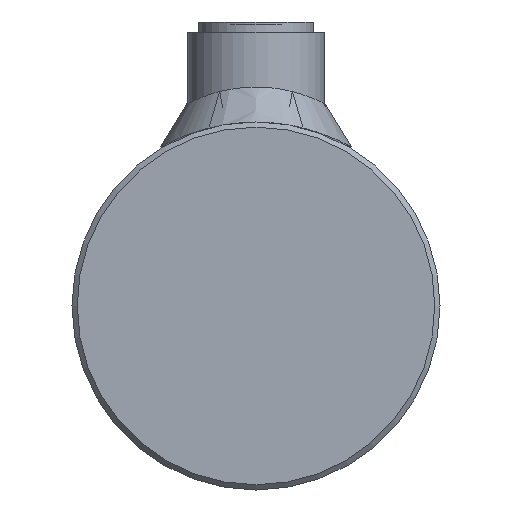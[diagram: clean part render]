
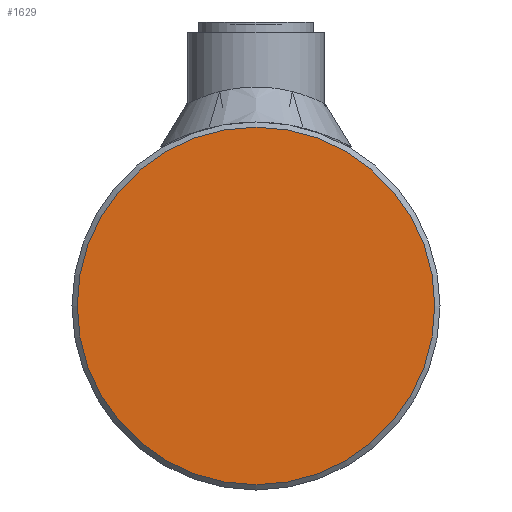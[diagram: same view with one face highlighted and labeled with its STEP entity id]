
A CAD part, left-side view. The second image highlights one B-rep face of the part: STEP entity #1629.
In plain terms, the highlighted planar face has unit normal (-1, 0, 0).
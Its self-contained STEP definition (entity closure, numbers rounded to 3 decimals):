
#1629 = ADVANCED_FACE( '', ( #3868 ), #3869, .T. );
#3868 = FACE_OUTER_BOUND( '', #4865, .T. );
#3869 = PLANE( '', #4866 );
#4865 = EDGE_LOOP( '', ( #5290 ) );
#4866 = AXIS2_PLACEMENT_3D( '', #5291, #5292, #5293 );
#5290 = ORIENTED_EDGE( '', *, *, #5932, .T. );
#5291 = CARTESIAN_POINT( '', ( -12., 0., 0. ) );
#5292 = DIRECTION( '', ( -1., 0., 0. ) );
#5293 = DIRECTION( '', ( 0., -1., 0. ) );
#5932 = EDGE_CURVE( '', #7778, #7778, #7779, .T. );
#7778 = VERTEX_POINT( '', #8251 );
#7779 = CIRCLE( '', #8252, 34. );
#8251 = CARTESIAN_POINT( '', ( -12., -34., 0. ) );
#8252 = AXIS2_PLACEMENT_3D( '', #8363, #8364, #8365 );
#8363 = CARTESIAN_POINT( '', ( -12., 0., 0. ) );
#8364 = DIRECTION( '', ( -1., 0., 0. ) );
#8365 = DIRECTION( '', ( 0., -1., 0. ) );
